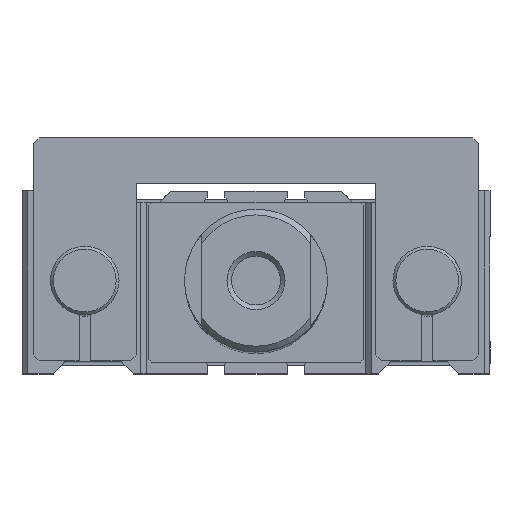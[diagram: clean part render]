
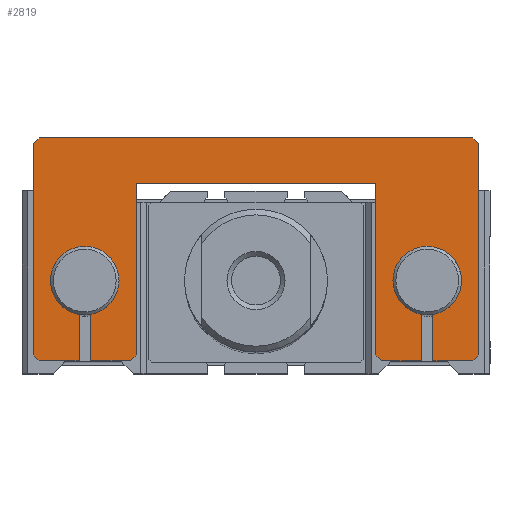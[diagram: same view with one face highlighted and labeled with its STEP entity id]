
A CAD part, top view. The second image highlights one B-rep face of the part: STEP entity #2819.
In plain terms, the highlighted planar face has unit normal (0, 0, 1).
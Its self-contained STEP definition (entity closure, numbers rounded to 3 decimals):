
#291=CARTESIAN_POINT('',(-29.0,-5.916,204.0));
#292=VERTEX_POINT('',#291);
#293=CARTESIAN_POINT('',(-31.0,-5.916,204.0));
#294=VERTEX_POINT('',#293);
#295=CARTESIAN_POINT('',(-30.0,0.0,204.0));
#296=DIRECTION('',(0.0,0.0,1.0));
#297=DIRECTION('',(0.0,-1.0,0.0));
#298=AXIS2_PLACEMENT_3D('',#295,#296,#297);
#299=CIRCLE('',#298,6.);
#300=EDGE_CURVE('',#292,#294,#299,.T.);
#378=CARTESIAN_POINT('',(31.,-5.916,204.0));
#379=VERTEX_POINT('',#378);
#380=CARTESIAN_POINT('',(29.,-5.916,204.0));
#381=VERTEX_POINT('',#380);
#382=CARTESIAN_POINT('',(30.0,0.0,204.0));
#383=DIRECTION('',(0.0,0.0,1.0));
#384=DIRECTION('',(0.0,-1.0,0.0));
#385=AXIS2_PLACEMENT_3D('',#382,#383,#384);
#386=CIRCLE('',#385,6.);
#387=EDGE_CURVE('',#379,#381,#386,.T.);
#2365=CARTESIAN_POINT('',(-39.0,24.,204.0));
#2366=VERTEX_POINT('',#2365);
#2367=CARTESIAN_POINT('',(-38.0,25.,204.0));
#2368=VERTEX_POINT('',#2367);
#2369=CARTESIAN_POINT('',(-39.0,24.,204.0));
#2370=DIRECTION('',(0.707,0.707,0.0));
#2371=VECTOR('',#2370,1.414);
#2372=LINE('',#2369,#2371);
#2373=EDGE_CURVE('',#2366,#2368,#2372,.T.);
#2429=CARTESIAN_POINT('',(-39.0,-13.,204.0));
#2430=VERTEX_POINT('',#2429);
#2437=CARTESIAN_POINT('',(-39.0,24.,204.0));
#2438=DIRECTION('',(0.0,-1.0,0.0));
#2439=VECTOR('',#2438,37.);
#2440=LINE('',#2437,#2439);
#2441=EDGE_CURVE('',#2366,#2430,#2440,.T.);
#2622=CARTESIAN_POINT('',(38.0,25.,204.0));
#2623=VERTEX_POINT('',#2622);
#2630=CARTESIAN_POINT('',(39.0,24.,204.0));
#2631=VERTEX_POINT('',#2630);
#2632=CARTESIAN_POINT('',(38.0,25.,204.0));
#2633=DIRECTION('',(0.707,-0.707,0.0));
#2634=VECTOR('',#2633,1.414);
#2635=LINE('',#2632,#2634);
#2636=EDGE_CURVE('',#2623,#2631,#2635,.T.);
#2653=CARTESIAN_POINT('',(39.0,-13.,204.0));
#2654=VERTEX_POINT('',#2653);
#2655=CARTESIAN_POINT('',(39.0,-13.,204.0));
#2656=DIRECTION('',(0.0,1.0,0.0));
#2657=VECTOR('',#2656,37.);
#2658=LINE('',#2655,#2657);
#2659=EDGE_CURVE('',#2654,#2631,#2658,.T.);
#2686=CARTESIAN_POINT('',(0.0,-14.,204.0));
#2687=DIRECTION('',(0.0,0.0,1.0));
#2688=DIRECTION('',(1.0,0.0,0.0));
#2689=AXIS2_PLACEMENT_3D('',#2686,#2687,#2688);
#2690=PLANE('',#2689);
#2691=ORIENTED_EDGE('',*,*,#2373,.F.);
#2692=ORIENTED_EDGE('',*,*,#2441,.T.);
#2693=CARTESIAN_POINT('',(-38.0,-14.,204.0));
#2694=VERTEX_POINT('',#2693);
#2695=CARTESIAN_POINT('',(-38.0,-14.,204.0));
#2696=DIRECTION('',(-0.707,0.707,0.0));
#2697=VECTOR('',#2696,1.414);
#2698=LINE('',#2695,#2697);
#2699=EDGE_CURVE('',#2694,#2430,#2698,.T.);
#2700=ORIENTED_EDGE('',*,*,#2699,.F.);
#2701=CARTESIAN_POINT('',(-31.0,-14.,204.0));
#2702=VERTEX_POINT('',#2701);
#2703=CARTESIAN_POINT('',(-38.0,-14.,204.0));
#2704=DIRECTION('',(1.0,0.0,0.0));
#2705=VECTOR('',#2704,7.0);
#2706=LINE('',#2703,#2705);
#2707=EDGE_CURVE('',#2694,#2702,#2706,.T.);
#2708=ORIENTED_EDGE('',*,*,#2707,.T.);
#2709=CARTESIAN_POINT('',(-31.0,-14.,204.0));
#2710=DIRECTION('',(0.0,1.0,0.0));
#2711=VECTOR('',#2710,8.084);
#2712=LINE('',#2709,#2711);
#2713=EDGE_CURVE('',#2702,#294,#2712,.T.);
#2714=ORIENTED_EDGE('',*,*,#2713,.T.);
#2715=ORIENTED_EDGE('',*,*,#300,.F.);
#2716=CARTESIAN_POINT('',(-29.0,-14.,204.0));
#2717=VERTEX_POINT('',#2716);
#2718=CARTESIAN_POINT('',(-29.0,-5.916,204.0));
#2719=DIRECTION('',(0.0,-1.0,0.0));
#2720=VECTOR('',#2719,8.084);
#2721=LINE('',#2718,#2720);
#2722=EDGE_CURVE('',#292,#2717,#2721,.T.);
#2723=ORIENTED_EDGE('',*,*,#2722,.T.);
#2724=CARTESIAN_POINT('',(-22.0,-14.,204.0));
#2725=VERTEX_POINT('',#2724);
#2726=CARTESIAN_POINT('',(-29.0,-14.,204.0));
#2727=DIRECTION('',(1.0,0.0,0.0));
#2728=VECTOR('',#2727,7.0);
#2729=LINE('',#2726,#2728);
#2730=EDGE_CURVE('',#2717,#2725,#2729,.T.);
#2731=ORIENTED_EDGE('',*,*,#2730,.T.);
#2732=CARTESIAN_POINT('',(-21.0,-13.,204.0));
#2733=VERTEX_POINT('',#2732);
#2734=CARTESIAN_POINT('',(-21.0,-13.,204.0));
#2735=DIRECTION('',(-0.707,-0.707,0.0));
#2736=VECTOR('',#2735,1.414);
#2737=LINE('',#2734,#2736);
#2738=EDGE_CURVE('',#2733,#2725,#2737,.T.);
#2739=ORIENTED_EDGE('',*,*,#2738,.F.);
#2740=CARTESIAN_POINT('',(-21.0,17.,204.0));
#2741=VERTEX_POINT('',#2740);
#2742=CARTESIAN_POINT('',(-21.0,-13.,204.0));
#2743=DIRECTION('',(0.0,1.0,0.0));
#2744=VECTOR('',#2743,30.);
#2745=LINE('',#2742,#2744);
#2746=EDGE_CURVE('',#2733,#2741,#2745,.T.);
#2747=ORIENTED_EDGE('',*,*,#2746,.T.);
#2748=CARTESIAN_POINT('',(21.0,17.,204.0));
#2749=VERTEX_POINT('',#2748);
#2750=CARTESIAN_POINT('',(-21.0,17.,204.0));
#2751=DIRECTION('',(1.0,0.0,0.0));
#2752=VECTOR('',#2751,42.0);
#2753=LINE('',#2750,#2752);
#2754=EDGE_CURVE('',#2741,#2749,#2753,.T.);
#2755=ORIENTED_EDGE('',*,*,#2754,.T.);
#2756=CARTESIAN_POINT('',(21.0,-13.,204.0));
#2757=VERTEX_POINT('',#2756);
#2758=CARTESIAN_POINT('',(21.0,17.,204.0));
#2759=DIRECTION('',(0.0,-1.0,0.0));
#2760=VECTOR('',#2759,30.);
#2761=LINE('',#2758,#2760);
#2762=EDGE_CURVE('',#2749,#2757,#2761,.T.);
#2763=ORIENTED_EDGE('',*,*,#2762,.T.);
#2764=CARTESIAN_POINT('',(22.0,-14.,204.0));
#2765=VERTEX_POINT('',#2764);
#2766=CARTESIAN_POINT('',(22.0,-14.,204.0));
#2767=DIRECTION('',(-0.707,0.707,0.0));
#2768=VECTOR('',#2767,1.414);
#2769=LINE('',#2766,#2768);
#2770=EDGE_CURVE('',#2765,#2757,#2769,.T.);
#2771=ORIENTED_EDGE('',*,*,#2770,.F.);
#2772=CARTESIAN_POINT('',(29.,-14.,204.0));
#2773=VERTEX_POINT('',#2772);
#2774=CARTESIAN_POINT('',(22.0,-14.,204.0));
#2775=DIRECTION('',(1.0,0.0,0.0));
#2776=VECTOR('',#2775,7.);
#2777=LINE('',#2774,#2776);
#2778=EDGE_CURVE('',#2765,#2773,#2777,.T.);
#2779=ORIENTED_EDGE('',*,*,#2778,.T.);
#2780=CARTESIAN_POINT('',(29.,-14.,204.0));
#2781=DIRECTION('',(0.0,1.0,0.0));
#2782=VECTOR('',#2781,8.084);
#2783=LINE('',#2780,#2782);
#2784=EDGE_CURVE('',#2773,#381,#2783,.T.);
#2785=ORIENTED_EDGE('',*,*,#2784,.T.);
#2786=ORIENTED_EDGE('',*,*,#387,.F.);
#2787=CARTESIAN_POINT('',(31.,-14.,204.0));
#2788=VERTEX_POINT('',#2787);
#2789=CARTESIAN_POINT('',(31.,-5.916,204.0));
#2790=DIRECTION('',(0.0,-1.0,0.0));
#2791=VECTOR('',#2790,8.084);
#2792=LINE('',#2789,#2791);
#2793=EDGE_CURVE('',#379,#2788,#2792,.T.);
#2794=ORIENTED_EDGE('',*,*,#2793,.T.);
#2795=CARTESIAN_POINT('',(38.0,-14.,204.0));
#2796=VERTEX_POINT('',#2795);
#2797=CARTESIAN_POINT('',(31.,-14.,204.0));
#2798=DIRECTION('',(1.0,0.0,0.0));
#2799=VECTOR('',#2798,7.);
#2800=LINE('',#2797,#2799);
#2801=EDGE_CURVE('',#2788,#2796,#2800,.T.);
#2802=ORIENTED_EDGE('',*,*,#2801,.T.);
#2803=CARTESIAN_POINT('',(39.0,-13.,204.0));
#2804=DIRECTION('',(-0.707,-0.707,0.0));
#2805=VECTOR('',#2804,1.414);
#2806=LINE('',#2803,#2805);
#2807=EDGE_CURVE('',#2654,#2796,#2806,.T.);
#2808=ORIENTED_EDGE('',*,*,#2807,.F.);
#2809=ORIENTED_EDGE('',*,*,#2659,.T.);
#2810=ORIENTED_EDGE('',*,*,#2636,.F.);
#2811=CARTESIAN_POINT('',(-38.0,25.,204.0));
#2812=DIRECTION('',(1.0,0.0,0.0));
#2813=VECTOR('',#2812,76.0);
#2814=LINE('',#2811,#2813);
#2815=EDGE_CURVE('',#2368,#2623,#2814,.T.);
#2816=ORIENTED_EDGE('',*,*,#2815,.F.);
#2817=EDGE_LOOP('',(#2691,#2692,#2700,#2708,#2714,#2715,#2723,#2731,#2739,#2747,#2755,#2763,#2771,#2779,#2785,#2786,#2794,#2802,#2808,#2809,#2810,#2816));
#2818=FACE_OUTER_BOUND('',#2817,.T.);
#2819=ADVANCED_FACE('',(#2818),#2690,.T.);
